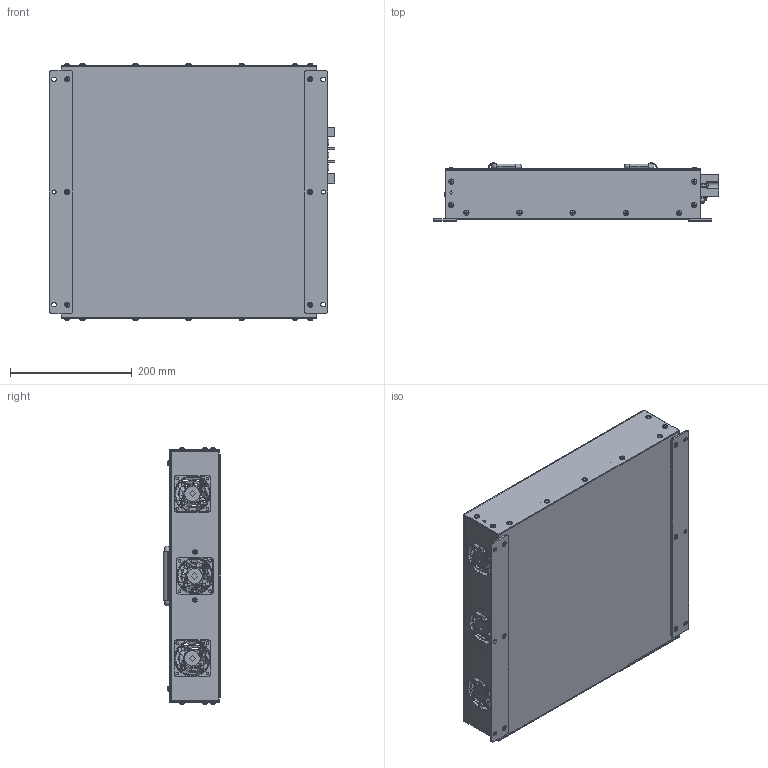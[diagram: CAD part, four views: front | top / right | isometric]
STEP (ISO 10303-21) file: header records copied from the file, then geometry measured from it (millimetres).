
FILE_DESCRIPTION(/* description */ (''),/* implementation_level */ '2;1');
FILE_NAME(/* name */ 'H:\04_배터리_전기종\고부하용 배터리 케이스_3D\[NEW] VW3COM, HANDLE2(접이식 핸들) 고객용\VW3COM_HANDLE2.stp',/* time_stamp */ '2025-04-09T16:10:33+09:00',/* author */ ('jjang'),/* organization */ (''),/* preprocessor_version */ 'ST-DEVELOPER v18.1',/* originating_system */ 'Autodesk Inventor 2021',/* authorisation */ '');
FILE_SCHEMA (('CONFIG_CONTROL_DESIGN'));
Products named in the file (1): VW3COM_Shrinkwrap_1
Bounding box: 468 x 95.2 x 421.84 mm (x, y, z)
Volume: 910711.1 mm3; surface area: 1138297.1 mm2
Topology: 15 solids, 15 shells, 4068 faces, 12223 edges, 8552 vertices
Faces by surface type: plane 2150, cylinder 1107, bspline 596, torus 145, cone 43, sphere 27
Full cylindrical faces by diameter (mm): 0.609 x1, 0.61 x27, 0.635 x9, 0.9 x6, 1.397 x9, 2.286 x9, 2.8 x8, 2.957 x4, 3 x2, 3.048 x4, 3.6 x4, 3.783 x2, 3.8 x58, 3.9 x2, 4 x11, 4.3 x12, 4.5 x20, 5 x9, 5.3 x10, 5.4 x2, 5.429 x2, 6 x2, 6.082 x1, 6.6 x2, 7.5 x6, 8 x1, 8.8 x25, 10 x6, 25.4 x3, 55.4 x3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
Entity records: 170587 total; most frequent: CARTESIAN_POINT 59196, ORIENTED_EDGE 24408, DIRECTION 19743, EDGE_CURVE 12204, VERTEX_POINT 8552, AXIS2_PLACEMENT_3D 6691, LINE 6361, VECTOR 6361
